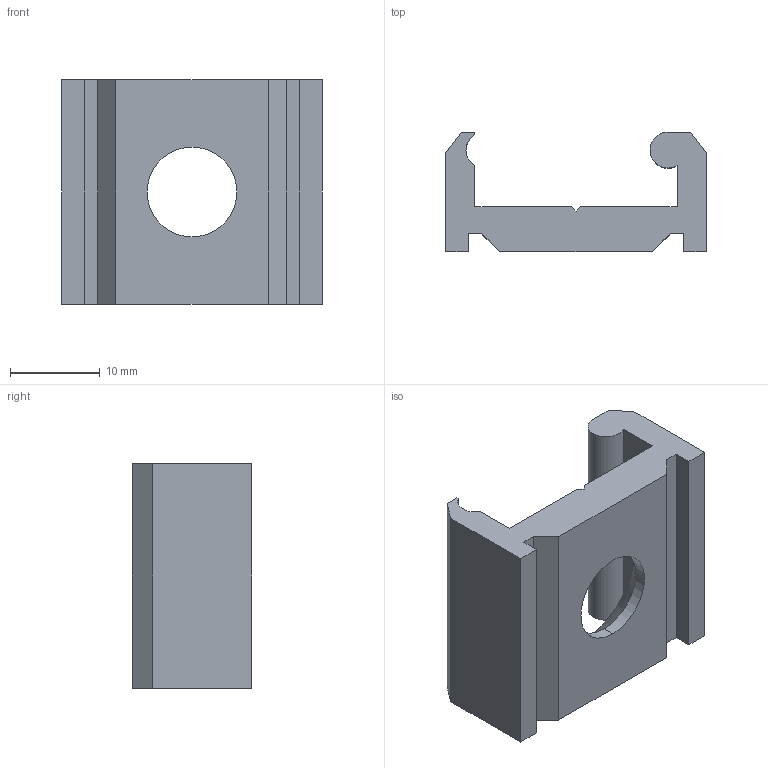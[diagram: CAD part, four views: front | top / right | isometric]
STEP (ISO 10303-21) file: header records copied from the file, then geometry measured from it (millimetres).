
FILE_DESCRIPTION (( 'STEP AP214' ), '1' );
FILE_NAME ('FGRC 20A.step', '2017-04-05T07:39:19', ( '' ), ( '' ), 'SwSTEP 2.0', 'SolidWorks 2015', '' );
FILE_SCHEMA (( 'AUTOMOTIVE_DESIGN' ));
Length unit declared in the file: millimetre
Products named in the file (1): FGRC 20A
Bounding box: 29 x 13.3 x 25 mm (x, y, z)
Volume: 4161.7 mm3; surface area: 3084.7 mm2
Topology: 1 solids, 1 shells, 34 faces, 95 edges, 62 vertices
Faces by surface type: plane 26, cylinder 6, cone 2
Entity records: 1123 total; most frequent: CARTESIAN_POINT 204, ORIENTED_EDGE 190, DIRECTION 175, EDGE_CURVE 95, LINE 77, VECTOR 77, VERTEX_POINT 62, AXIS2_PLACEMENT_3D 49
